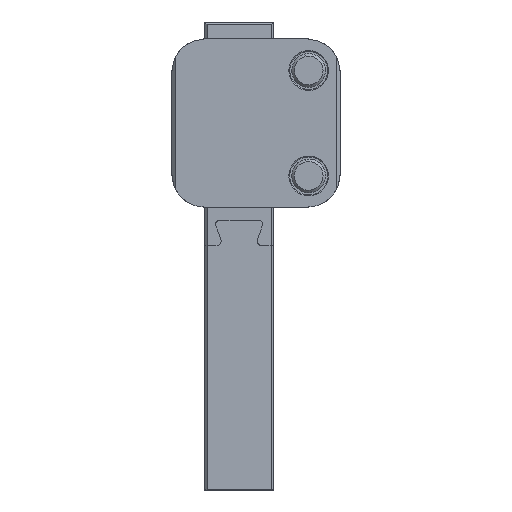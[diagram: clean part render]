
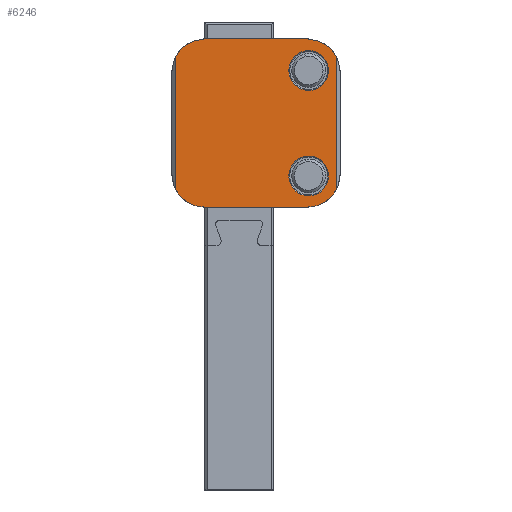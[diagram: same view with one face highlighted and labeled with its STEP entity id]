
A CAD part, front view. The second image highlights one B-rep face of the part: STEP entity #6246.
In plain terms, the highlighted planar face has unit normal (0, -1, 0).
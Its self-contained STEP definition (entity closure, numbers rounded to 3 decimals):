
#606 = VERTEX_POINT ( 'NONE', #5833 ) ;
#644 = VERTEX_POINT ( 'NONE', #5887 ) ;
#662 = VERTEX_POINT ( 'NONE', #5898 ) ;
#663 = VERTEX_POINT ( 'NONE', #5895 ) ;
#664 = VERTEX_POINT ( 'NONE', #5902 ) ;
#671 = VERTEX_POINT ( 'NONE', #5923 ) ;
#678 = VERTEX_POINT ( 'NONE', #5927 ) ;
#691 = VERTEX_POINT ( 'NONE', #5387 ) ;
#695 = VERTEX_POINT ( 'NONE', #5395 ) ;
#697 = VERTEX_POINT ( 'NONE', #5396 ) ;
#699 = VERTEX_POINT ( 'NONE', #5398 ) ;
#700 = VERTEX_POINT ( 'NONE', #5399 ) ;
#709 = VERTEX_POINT ( 'NONE', #5436 ) ;
#712 = VERTEX_POINT ( 'NONE', #5435 ) ;
#737 = VERTEX_POINT ( 'NONE', #5440 ) ;
#744 = VERTEX_POINT ( 'NONE', #5443 ) ;
#805 = DIRECTION ( 'NONE',  ( 0., 0., -1. ) ) ;
#811 = DIRECTION ( 'NONE',  ( 0., 1., 0. ) ) ;
#821 = CARTESIAN_POINT ( 'NONE',  ( 16.25, 0., -3.75 ) ) ;
#1972 = EDGE_CURVE ( 'NONE', #737, #691, #5460, .T. ) ;
#1982 = EDGE_CURVE ( 'NONE', #606, #700, #3982, .T. ) ;
#2018 = EDGE_CURVE ( 'NONE', #695, #691, #5583, .T. ) ;
#2020 = EDGE_CURVE ( 'NONE', #644, #671, #3734, .T. ) ;
#2022 = EDGE_CURVE ( 'NONE', #671, #644, #3740, .T. ) ;
#2027 = EDGE_CURVE ( 'NONE', #737, #712, #3721, .T. ) ;
#2036 = EDGE_CURVE ( 'NONE', #662, #697, #3716, .T. ) ;
#2056 = EDGE_CURVE ( 'NONE', #744, #664, #13293, .T. ) ;
#2058 = EDGE_CURVE ( 'NONE', #744, #709, #3780, .T. ) ;
#2060 = EDGE_CURVE ( 'NONE', #709, #712, #13297, .T. ) ;
#2062 = EDGE_CURVE ( 'NONE', #699, #663, #3785, .T. ) ;
#2070 = EDGE_CURVE ( 'NONE', #663, #697, #13343, .T. ) ;
#2082 = EDGE_CURVE ( 'NONE', #662, #678, #13359, .T. ) ;
#2089 = EDGE_CURVE ( 'NONE', #699, #695, #13406, .T. ) ;
#2099 = EDGE_CURVE ( 'NONE', #664, #678, #13411, .T. ) ;
#2412 = EDGE_CURVE ( 'NONE', #700, #606, #13991, .T. ) ;
#2612 = ORIENTED_EDGE ( 'NONE', *, *, #2027, .F. ) ;
#2614 = ORIENTED_EDGE ( 'NONE', *, *, #2020, .T. ) ;
#2618 = ORIENTED_EDGE ( 'NONE', *, *, #2056, .F. ) ;
#2629 = ORIENTED_EDGE ( 'NONE', *, *, #1982, .T. ) ;
#2641 = ORIENTED_EDGE ( 'NONE', *, *, #2018, .F. ) ;
#2642 = ORIENTED_EDGE ( 'NONE', *, *, #2062, .T. ) ;
#2644 = ORIENTED_EDGE ( 'NONE', *, *, #2089, .F. ) ;
#2658 = ORIENTED_EDGE ( 'NONE', *, *, #2099, .F. ) ;
#2661 = ORIENTED_EDGE ( 'NONE', *, *, #2022, .T. ) ;
#2662 = ORIENTED_EDGE ( 'NONE', *, *, #2412, .T. ) ;
#2671 = ORIENTED_EDGE ( 'NONE', *, *, #2058, .T. ) ;
#2674 = ORIENTED_EDGE ( 'NONE', *, *, #2060, .T. ) ;
#2683 = ORIENTED_EDGE ( 'NONE', *, *, #1972, .T. ) ;
#2690 = ORIENTED_EDGE ( 'NONE', *, *, #2036, .F. ) ;
#2697 = ORIENTED_EDGE ( 'NONE', *, *, #2070, .T. ) ;
#2716 = ORIENTED_EDGE ( 'NONE', *, *, #2082, .T. ) ;
#3702 = AXIS2_PLACEMENT_3D ( 'NONE', #5588, #5594, #5596 ) ;
#3709 = AXIS2_PLACEMENT_3D ( 'NONE', #5609, #5625, #5614 ) ;
#3716 = CIRCLE ( 'NONE', #3719, 3.65 ) ;
#3719 = AXIS2_PLACEMENT_3D ( 'NONE', #5649, #5658, #5652 ) ;
#3721 = CIRCLE ( 'NONE', #3731, 3.65 ) ;
#3731 = AXIS2_PLACEMENT_3D ( 'NONE', #5622, #5616, #5628 ) ;
#3734 = CIRCLE ( 'NONE', #3702, 2.35 ) ;
#3737 = VECTOR ( 'NONE', #5593, 1000. ) ;
#3740 = CIRCLE ( 'NONE', #3709, 2.35 ) ;
#3755 = VECTOR ( 'NONE', #13392, 1000. ) ;
#3765 = AXIS2_PLACEMENT_3D ( 'NONE', #13307, #13300, #13314 ) ;
#3767 = VECTOR ( 'NONE', #13298, 1000. ) ;
#3770 = VECTOR ( 'NONE', #13337, 1000. ) ;
#3779 = AXIS2_PLACEMENT_3D ( 'NONE', #13349, #13322, #13339 ) ;
#3780 = CIRCLE ( 'NONE', #3765, 3.65 ) ;
#3785 = CIRCLE ( 'NONE', #3779, 3.65 ) ;
#3797 = VECTOR ( 'NONE', #13348, 1000. ) ;
#3832 = VECTOR ( 'NONE', #13479, 1000. ) ;
#3846 = VECTOR ( 'NONE', #13420, 1000. ) ;
#3962 = VECTOR ( 'NONE', #5445, 1000. ) ;
#3982 = CIRCLE ( 'NONE', #3990, 2.35 ) ;
#3990 = AXIS2_PLACEMENT_3D ( 'NONE', #5475, #5479, #5494 ) ;
#5387 = CARTESIAN_POINT ( 'NONE',  ( 16.25, 0., 0. ) ) ;
#5395 = CARTESIAN_POINT ( 'NONE',  ( 3.75, 0., 0. ) ) ;
#5396 = CARTESIAN_POINT ( 'NONE',  ( 0.5, 0., -17.911 ) ) ;
#5398 = CARTESIAN_POINT ( 'NONE',  ( 3.75, 0., -0.1 ) ) ;
#5399 = CARTESIAN_POINT ( 'NONE',  ( 16.25, 0., -6.1 ) ) ;
#5432 = CARTESIAN_POINT ( 'NONE',  ( 16.25, 0., -10. ) ) ;
#5435 = CARTESIAN_POINT ( 'NONE',  ( 19.5, 0., -2.089 ) ) ;
#5436 = CARTESIAN_POINT ( 'NONE',  ( 19.5, 0., -17.911 ) ) ;
#5440 = CARTESIAN_POINT ( 'NONE',  ( 16.25, 0., -0.1 ) ) ;
#5443 = CARTESIAN_POINT ( 'NONE',  ( 16.25, 0., -19.9 ) ) ;
#5445 = DIRECTION ( 'NONE',  ( 0., 0., 1. ) ) ;
#5460 = LINE ( 'NONE', #5432, #3962 ) ;
#5475 = CARTESIAN_POINT ( 'NONE',  ( 16.25, 0., -3.75 ) ) ;
#5479 = DIRECTION ( 'NONE',  ( 0., 1., 0. ) ) ;
#5494 = DIRECTION ( 'NONE',  ( 0., 0., -1. ) ) ;
#5583 = LINE ( 'NONE', #5595, #3737 ) ;
#5588 = CARTESIAN_POINT ( 'NONE',  ( 16.25, 0., -16.25 ) ) ;
#5593 = DIRECTION ( 'NONE',  ( 1., 0., 0. ) ) ;
#5594 = DIRECTION ( 'NONE',  ( 0., 1., 0. ) ) ;
#5595 = CARTESIAN_POINT ( 'NONE',  ( 0., 0., 0. ) ) ;
#5596 = DIRECTION ( 'NONE',  ( 0., 0., -1. ) ) ;
#5609 = CARTESIAN_POINT ( 'NONE',  ( 16.25, 0., -16.25 ) ) ;
#5614 = DIRECTION ( 'NONE',  ( 0., 0., -1. ) ) ;
#5616 = DIRECTION ( 'NONE',  ( 0., 1., 0. ) ) ;
#5622 = CARTESIAN_POINT ( 'NONE',  ( 16.25, 0., -3.75 ) ) ;
#5625 = DIRECTION ( 'NONE',  ( 0., 1., 0. ) ) ;
#5628 = DIRECTION ( 'NONE',  ( 0., 0., -1. ) ) ;
#5649 = CARTESIAN_POINT ( 'NONE',  ( 3.75, 0., -16.25 ) ) ;
#5652 = DIRECTION ( 'NONE',  ( 0., 0., 1. ) ) ;
#5658 = DIRECTION ( 'NONE',  ( 0., 1., 0. ) ) ;
#5833 = CARTESIAN_POINT ( 'NONE',  ( 16.25, 0., -1.4 ) ) ;
#5887 = CARTESIAN_POINT ( 'NONE',  ( 16.25, 0., -13.9 ) ) ;
#5895 = CARTESIAN_POINT ( 'NONE',  ( 0.5, 0., -2.089 ) ) ;
#5898 = CARTESIAN_POINT ( 'NONE',  ( 3.75, 0., -19.9 ) ) ;
#5902 = CARTESIAN_POINT ( 'NONE',  ( 16.25, 0., -20. ) ) ;
#5923 = CARTESIAN_POINT ( 'NONE',  ( 16.25, 0., -18.6 ) ) ;
#5927 = CARTESIAN_POINT ( 'NONE',  ( 3.75, 0., -20. ) ) ;
#6246 = ADVANCED_FACE ( 'NONE', ( #7716, #7743, #7749 ), #7746, .T. ) ;
#7716 = FACE_BOUND ( 'NONE', #12472, .T. ) ;
#7730 = DIRECTION ( 'NONE',  ( 0., 0., -1. ) ) ;
#7737 = DIRECTION ( 'NONE',  ( 0., -1., 0. ) ) ;
#7743 = FACE_BOUND ( 'NONE', #12445, .T. ) ;
#7746 = PLANE ( 'NONE',  #13187 ) ;
#7749 = FACE_OUTER_BOUND ( 'NONE', #12456, .T. ) ;
#7750 = CARTESIAN_POINT ( 'NONE',  ( 0., 0., -20. ) ) ;
#12445 = EDGE_LOOP ( 'NONE', ( #2661, #2614 ) ) ;
#12456 = EDGE_LOOP ( 'NONE', ( #2674, #2612, #2683, #2641, #2644, #2642, #2697, #2690, #2716, #2658, #2618, #2671 ) ) ;
#12472 = EDGE_LOOP ( 'NONE', ( #2662, #2629 ) ) ;
#13187 = AXIS2_PLACEMENT_3D ( 'NONE', #7750, #7737, #7730 ) ;
#13293 = LINE ( 'NONE', #13313, #3767 ) ;
#13297 = LINE ( 'NONE', #13328, #3770 ) ;
#13298 = DIRECTION ( 'NONE',  ( 0., 0., -1. ) ) ;
#13300 = DIRECTION ( 'NONE',  ( 0., -1., 0. ) ) ;
#13307 = CARTESIAN_POINT ( 'NONE',  ( 16.25, 0., -16.25 ) ) ;
#13313 = CARTESIAN_POINT ( 'NONE',  ( 16.25, 0., -10. ) ) ;
#13314 = DIRECTION ( 'NONE',  ( 0., 0., 1. ) ) ;
#13322 = DIRECTION ( 'NONE',  ( 0., -1., 0. ) ) ;
#13328 = CARTESIAN_POINT ( 'NONE',  ( 19.5, 0., 0. ) ) ;
#13334 = CARTESIAN_POINT ( 'NONE',  ( 0.5, 0., -20. ) ) ;
#13337 = DIRECTION ( 'NONE',  ( 0., 0., 1. ) ) ;
#13339 = DIRECTION ( 'NONE',  ( 0., 0., -1. ) ) ;
#13343 = LINE ( 'NONE', #13334, #3797 ) ;
#13348 = DIRECTION ( 'NONE',  ( 0., 0., -1. ) ) ;
#13349 = CARTESIAN_POINT ( 'NONE',  ( 3.75, 0., -3.75 ) ) ;
#13359 = LINE ( 'NONE', #13391, #3755 ) ;
#13391 = CARTESIAN_POINT ( 'NONE',  ( 3.75, 0., -10. ) ) ;
#13392 = DIRECTION ( 'NONE',  ( 0., 0., -1. ) ) ;
#13406 = LINE ( 'NONE', #13422, #3846 ) ;
#13411 = LINE ( 'NONE', #13432, #3832 ) ;
#13420 = DIRECTION ( 'NONE',  ( 0., 0., 1. ) ) ;
#13422 = CARTESIAN_POINT ( 'NONE',  ( 3.75, 0., -10. ) ) ;
#13432 = CARTESIAN_POINT ( 'NONE',  ( 0., 0., -20. ) ) ;
#13479 = DIRECTION ( 'NONE',  ( -1., 0., 0. ) ) ;
#13991 = CIRCLE ( 'NONE', #13994, 2.35 ) ;
#13994 = AXIS2_PLACEMENT_3D ( 'NONE', #821, #811, #805 ) ;
